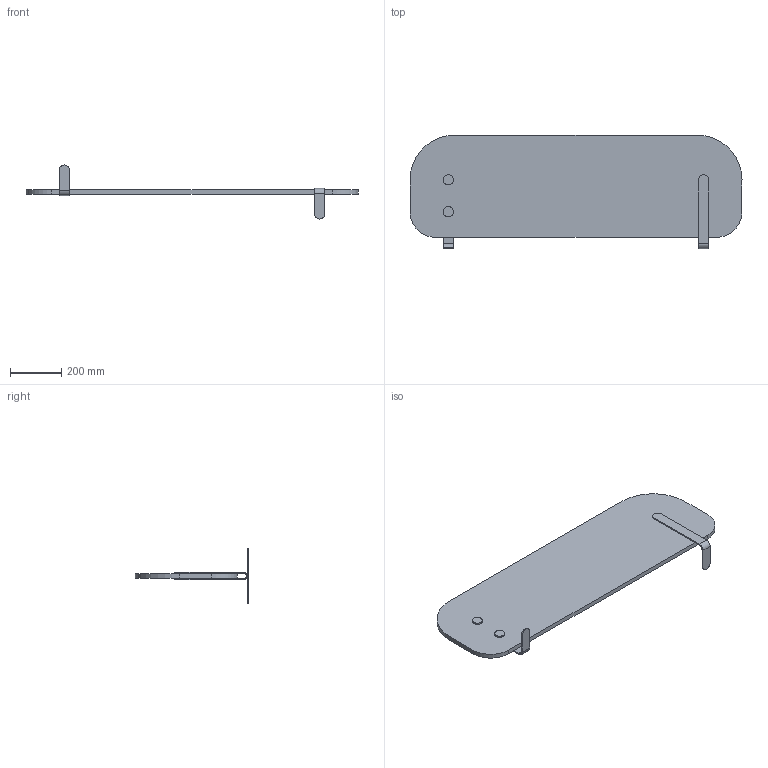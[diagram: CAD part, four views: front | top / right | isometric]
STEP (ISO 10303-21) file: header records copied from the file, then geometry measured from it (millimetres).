
FILE_DESCRIPTION (( 'STEP AP214' ), '1' );
FILE_NAME ('NIK_YM.STEP', '2021-11-29T08:50:11', ( '' ), ( '' ), 'SwSTEP 2.0', 'SolidWorks 2019', '' );
FILE_SCHEMA (( 'AUTOMOTIVE_DESIGN' ));
Length unit declared in the file: millimetre
Products named in the file (7): YM; NIK_SUP_YM; NIK_SOP_YM_01; CASQUILLO_ROSCADO18; TORNILLOS15; NIK_YM
Assembly tree (13 placements, depth 3):
  NIK_YM
    YM
    NIK_SUP_YM
      NIK_SOP_YM_01
      CASQUILLO_ROSCADO18  x2
    NIK_SUP_YM
      NIK_SOP_YM_01
      CASQUILLO_ROSCADO18  x2
    TORNILLOS15  x4
Bounding box: 1300 x 445 x 212 mm (x, y, z)
Volume: 9223010.4 mm3; surface area: 1156892 mm2
Topology: 11 solids, 11 shells, 232 faces, 586 edges, 380 vertices
Faces by surface type: cylinder 170, plane 50, bspline 12
Entity records: 4912 total; most frequent: CARTESIAN_POINT 2843, ORIENTED_EDGE 396, DIRECTION 371, EDGE_CURVE 198, AXIS2_PLACEMENT_3D 143, VERTEX_POINT 128, EDGE_LOOP 90, VECTOR 85
